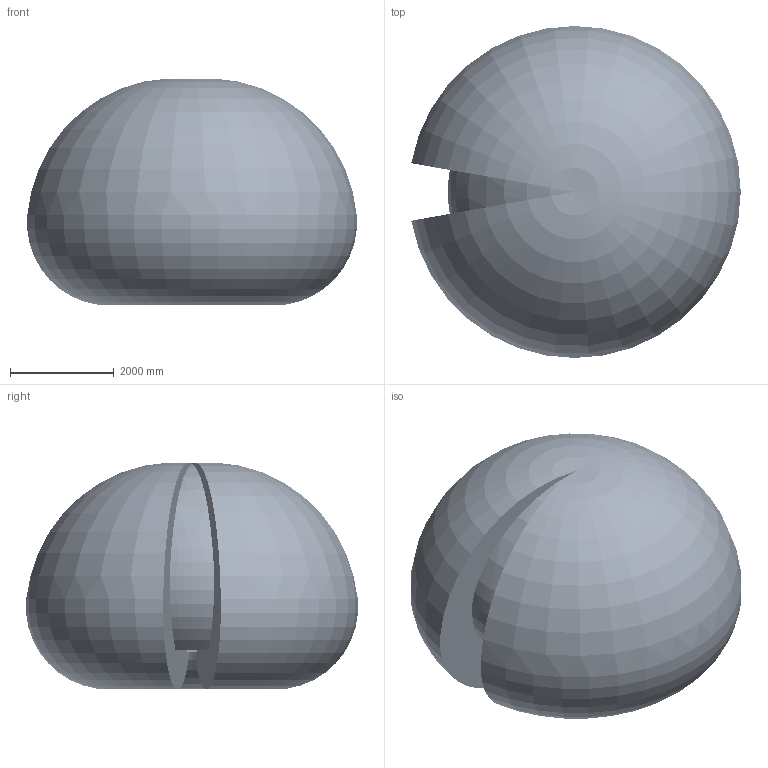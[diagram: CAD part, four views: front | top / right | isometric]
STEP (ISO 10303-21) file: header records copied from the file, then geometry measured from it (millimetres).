
FILE_DESCRIPTION (( 'STEP AP214' ), '1' );
FILE_NAME ('IRB6720-LID-SW_140kg-320_OC_01_ASM_CAD.step', '2026-06-10T12:08:40', ( '' ), ( '' ), 'SwSTEP 2.0', 'SolidWorks 2024', '' );
FILE_SCHEMA (( 'AUTOMOTIVE_DESIGN' ));
Length unit declared in the file: millimetre
Products named in the file (20): IRB6720-LID-SW_140kg-320_OC_00_LINK03a_CABLE; IRB6720-LID_140kg-320_OC_00_CYL_CAD; IRB6720-LID-SW_140kg-320_OC_00_LINK01_CABLE; IRB6720-LID_140kg-320_OC_00_LINK06_CABLE; IRB6720-LID-SW_140kg-320_OC_00_LINK03b_CABLE; IRB6720-LID_140kg-320_OC_00_LINK03_CAD; IRB6720-LID-SW_140kg-320_OC_00_Working-space; IRB6720-LID_140kg-320_OC_00_BASE_CAD; IRB6720-LID-SW_140kg-320_OC_00_LINK02_CABLE; IRB6720-LID-SW_140kg-320_OC_01_ASM_CAD; IRB6720-LID_140kg-320_OC_00_LINK02m_CABLE; IRB6720-LID_140kg-320_OC_00_LINK01m_CABLE; IRB6720-LID_140kg-320_OC_00_LINK03m_CABLE; IRB6720-LID_140kg-320_OC_01_LINK05_CAD; IRB6720-LID_140kg-320_OC_00_LINK01_CAD; IRB6720-LID_140kg-320_OC_00_LINK04_CABLE; IRB6720-LID_140kg-320_OC_00_LINK04_CAD; IRB6720-LID_140kg-320_OC_00_LINK02_CAD; IRB6720-LID_140kg-320_OC_00_ROD_CAD; IRB6720-LID_140kg-320_OC_00_LINK05_CABLE
Assembly tree (19 placements, depth 2):
  IRB6720-LID-SW_140kg-320_OC_01_ASM_CAD
    IRB6720-LID_140kg-320_OC_00_BASE_CAD
    IRB6720-LID_140kg-320_OC_00_CYL_CAD
    IRB6720-LID_140kg-320_OC_00_LINK01_CAD
    IRB6720-LID_140kg-320_OC_00_ROD_CAD
    IRB6720-LID_140kg-320_OC_00_LINK02_CAD
    IRB6720-LID_140kg-320_OC_00_LINK03_CAD
    IRB6720-LID_140kg-320_OC_00_LINK04_CAD
    IRB6720-LID_140kg-320_OC_01_LINK05_CAD
    IRB6720-LID_140kg-320_OC_00_LINK06_CABLE
    IRB6720-LID_140kg-320_OC_00_LINK01m_CABLE
    IRB6720-LID_140kg-320_OC_00_LINK02m_CABLE
    IRB6720-LID_140kg-320_OC_00_LINK03m_CABLE
    IRB6720-LID_140kg-320_OC_00_LINK04_CABLE
    IRB6720-LID_140kg-320_OC_00_LINK05_CABLE
    IRB6720-LID-SW_140kg-320_OC_00_LINK01_CABLE
    IRB6720-LID-SW_140kg-320_OC_00_LINK02_CABLE
    IRB6720-LID-SW_140kg-320_OC_00_LINK03a_CABLE
    IRB6720-LID-SW_140kg-320_OC_00_LINK03b_CABLE
    IRB6720-LID-SW_140kg-320_OC_00_Working-space
Bounding box: 6341.15 x 6389.68 x 4367.91 mm (x, y, z)
Volume: 92885729814.1 mm3; surface area: 151523409 mm2
Topology: 20 solids, 37 shells, 9894 faces, 25207 edges, 16011 vertices
Faces by surface type: plane 4577, cylinder 2624, cone 1352, bspline 858, torus 433, sphere 50
Entity records: 537288 total; most frequent: CARTESIAN_POINT 306941, ORIENTED_EDGE 50072, DIRECTION 44900, EDGE_CURVE 25036, AXIS2_PLACEMENT_3D 16474, VERTEX_POINT 16009, VECTOR 11952, LINE 11952
